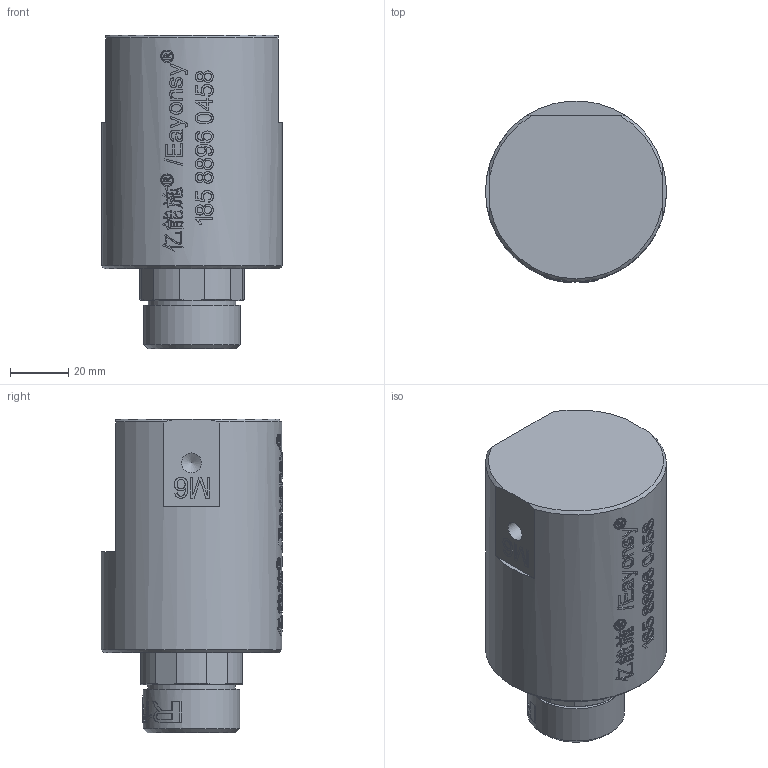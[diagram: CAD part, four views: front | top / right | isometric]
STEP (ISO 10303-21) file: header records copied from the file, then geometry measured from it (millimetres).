
FILE_DESCRIPTION(/* description */ (''),/* implementation_level */ '2;1');
FILE_NAME(/* name */ 'YC0108(RH)-3D模型.stp',/* time_stamp */ '2025-07-09T08:07:00+08:00',/* author */ (''),/* organization */ (''),/* preprocessor_version */ 'ST-DEVELOPER v16.7',/* originating_system */ 'SIEMENS PLM Software NX 12.0',/* authorisation */ '');
FILE_SCHEMA (('AUTOMOTIVE_DESIGN { 1 0 10303 214 3 1 1 1 }'));
Products named in the file (1): Admi1300D6723uwh
Bounding box: 62 x 62.2 x 107.5 mm (x, y, z)
Volume: 210259 mm3; surface area: 34371.5 mm2
Topology: 1 solids, 1 shells, 1124 faces, 3118 edges, 2078 vertices
Faces by surface type: extrusion 663, plane 352, bspline 49, cylinder 47, cone 13
Full cylindrical faces by diameter (mm): 3 x2, 6.8 x2, 20 x1, 24 x1, 30 x1, 30.3 x1, 33.2 x1, 55 x1, 58 x1, 62 x1
Entity records: 46554 total; most frequent: CARTESIAN_POINT 22769, ORIENTED_EDGE 6172, B_SPLINE_CURVE_WITH_KNOTS 3168, EDGE_CURVE 3086, DIRECTION 2318, VERTEX_POINT 2065, EDGE_LOOP 1225, ADVANCED_FACE 1124
